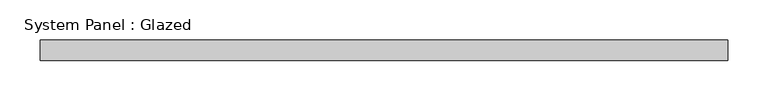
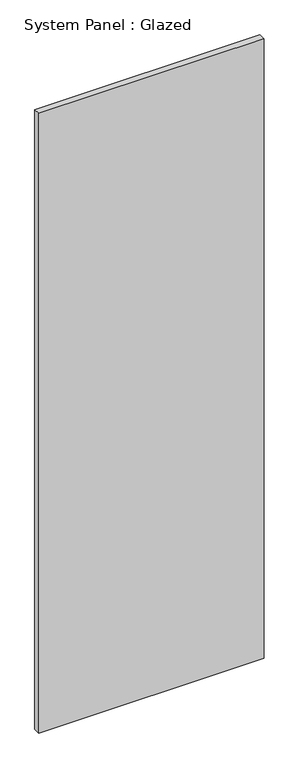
"""IFC4 building model written with IfcOpenShell, lengths in millimetres: plate geometry, System Panel : Glazed."""

from ifc_helpers import new_model, si_unit, origin, origin_with_axes, place, context, project, spatial, polyline, outline, extrude, source, transform, mapped, element, save


def system_panel_glazed_6ccc6dc1(model_context):
    return source(origin(), model_context, "Body", "SweptSolid", [
        extrude(outline(polyline([(425.0, -49.5), (-425.0, -49.5), (-425.0, -24.5), (425.0, -24.5), (425.0, -49.5)])), origin_with_axes(), (0.0, 0.0, 1.0), 2470.0),
    ])


if __name__ == "__main__":
    model = new_model("IFC4")
    model_context = context("Model", 3, world=origin())
    ifc_project = project(units=[si_unit("LENGTHUNIT", "METRE", prefix="MILLI")], contexts=[model_context])
    site = spatial("IfcSite", under=ifc_project)
    building = spatial("IfcBuilding", under=site)
    placement = place(None, origin())
    system_panel_glazed_shape = system_panel_glazed_6ccc6dc1(model_context)
    element("IfcPlate", 1, ObjectType="System Panel : Glazed", at=placement, inside=building, context=model_context, shape_type="MappedRepresentation", body=[
        mapped(system_panel_glazed_shape, transform((0.0, 0.0, 0.0), x_axis=(1.0, 0.0, 0.0), y_axis=(0.0, 1.0, 0.0), z_axis=(0.0, 0.0, 1.0))),
    ])
    save(model, "model.ifc")
